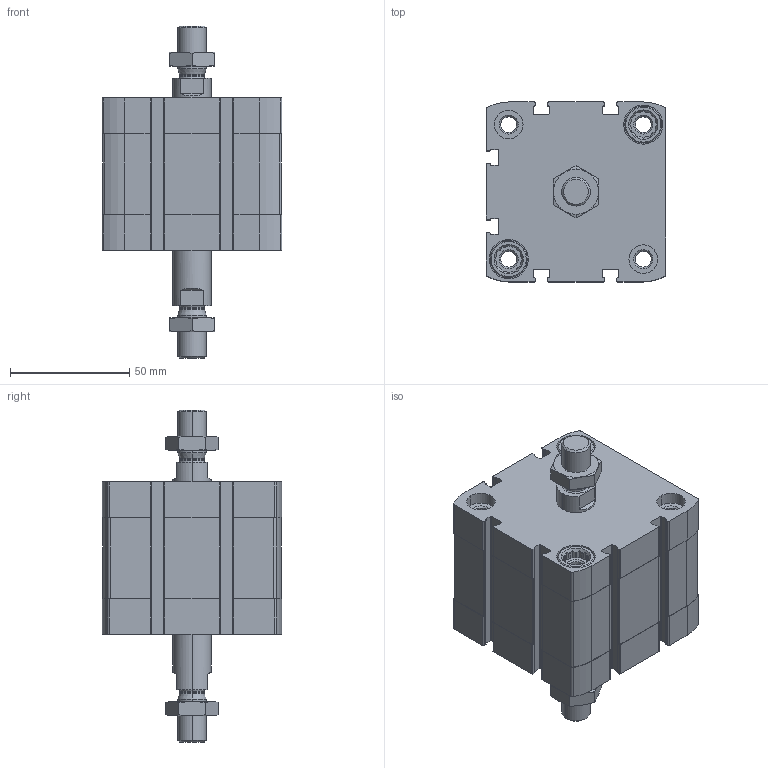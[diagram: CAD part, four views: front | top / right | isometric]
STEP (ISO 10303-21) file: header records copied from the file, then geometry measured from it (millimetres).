
FILE_DESCRIPTION (( 'STEP AP203' ), '1' );
FILE_NAME ('CCN63-15-P.STEP', '2020-06-22T19:01:06', ( '' ), ( '' ), 'SwSTEP 2.0', 'SolidWorks 2019', '' );
FILE_SCHEMA (( 'CONFIG_CONTROL_DESIGN' ));
Length unit declared in the file: millimetre
Products named in the file (1): CCN63-15-P
Bounding box: 75.5 x 75.5 x 139.4 mm (x, y, z)
Volume: 303446.7 mm3; surface area: 74087.6 mm2
Topology: 4 solids, 4 shells, 528 faces, 1396 edges, 908 vertices
Faces by surface type: plane 240, cylinder 220, cone 60, torus 8
Entity records: 17259 total; most frequent: CARTESIAN_POINT 3829, DIRECTION 2850, ORIENTED_EDGE 2792, EDGE_CURVE 1396, AXIS2_PLACEMENT_3D 1049, VERTEX_POINT 908, LINE 752, VECTOR 752
